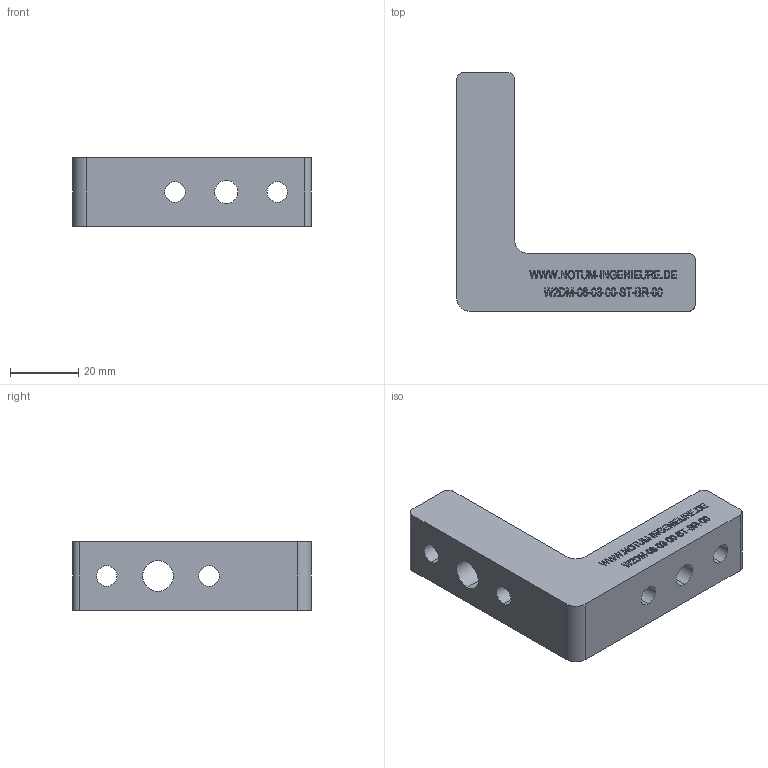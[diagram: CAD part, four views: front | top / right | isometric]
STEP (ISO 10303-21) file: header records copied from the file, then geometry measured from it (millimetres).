
FILE_DESCRIPTION (( 'STEP AP214' ), '1' );
FILE_NAME ('W2DM-08-03-00-ST-BR-00__Notum.STEP', '2018-03-29T11:16:35', ( '' ), ( '' ), 'SwSTEP 2.0', 'SolidWorks 2015', '' );
FILE_SCHEMA (( 'AUTOMOTIVE_DESIGN' ));
Length unit declared in the file: millimetre
Products named in the file (1): W2DM-08-03-00-ST-BR-00__Notum
Bounding box: 70 x 70 x 20 mm (x, y, z)
Volume: 38098.6 mm3; surface area: 11582.5 mm2
Topology: 1 solids, 1 shells, 571 faces, 1527 edges, 1018 vertices
Faces by surface type: plane 365, bspline 188, cylinder 18
Entity records: 33359 total; most frequent: CARTESIAN_POINT 14337, ORIENTED_EDGE 3054, DIRECTION 1955, EDGE_CURVE 1527, VECTOR 1115, LINE 1115, VERTEX_POINT 1018, EDGE_LOOP 643
